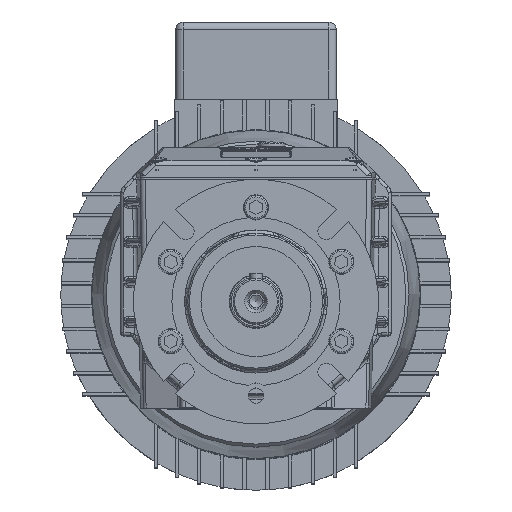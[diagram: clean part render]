
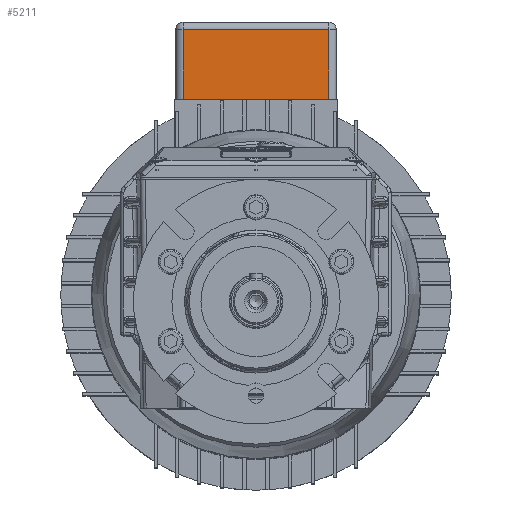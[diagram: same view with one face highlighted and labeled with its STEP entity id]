
A CAD part, top view. The second image highlights one B-rep face of the part: STEP entity #5211.
In plain terms, the highlighted planar face has unit normal (0, 0, 1).
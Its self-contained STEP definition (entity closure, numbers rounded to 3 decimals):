
#5211 = ADVANCED_FACE( '', ( #10962 ), #10963, .T. );
#10962 = FACE_OUTER_BOUND( '', #31929, .T. );
#10963 = PLANE( '', #31930 );
#31929 = EDGE_LOOP( '', ( #48696, #48697, #48698, #48699 ) );
#31930 = AXIS2_PLACEMENT_3D( '', #48700, #48701, #48702 );
#48696 = ORIENTED_EDGE( '', *, *, #55784, .T. );
#48697 = ORIENTED_EDGE( '', *, *, #55867, .T. );
#48698 = ORIENTED_EDGE( '', *, *, #52023, .T. );
#48699 = ORIENTED_EDGE( '', *, *, #57073, .T. );
#48700 = CARTESIAN_POINT( '', ( 52.5, 183.27, -298.9 ) );
#48701 = DIRECTION( '', ( 0., 0., 1. ) );
#48702 = DIRECTION( '', ( 1., 0., 0. ) );
#52023 = EDGE_CURVE( '', #59168, #59166, #59169, .T. );
#55784 = EDGE_CURVE( '', #64901, #64865, #64903, .T. );
#55867 = EDGE_CURVE( '', #64865, #59168, #65006, .T. );
#57073 = EDGE_CURVE( '', #59166, #64901, #66439, .F. );
#59166 = VERTEX_POINT( '', #69763 );
#59168 = VERTEX_POINT( '', #69765 );
#59169 = LINE( '', #69766, #69767 );
#64865 = VERTEX_POINT( '', #80154 );
#64901 = VERTEX_POINT( '', #80199 );
#64903 = LINE( '', #80201, #80202 );
#65006 = LINE( '', #80350, #80351 );
#66439 = LINE( '', #83472, #83473 );
#69763 = CARTESIAN_POINT( '', ( 47.5, 132.77, -298.9 ) );
#69765 = CARTESIAN_POINT( '', ( -47.5, 132.77, -298.9 ) );
#69766 = CARTESIAN_POINT( '', ( -53.5, 132.77, -298.9 ) );
#69767 = VECTOR( '', #85395, 1000. );
#80154 = CARTESIAN_POINT( '', ( -47.5, 178.27, -298.9 ) );
#80199 = CARTESIAN_POINT( '', ( 47.5, 178.27, -298.9 ) );
#80201 = CARTESIAN_POINT( '', ( 52.5, 178.27, -298.9 ) );
#80202 = VECTOR( '', #90011, 1000. );
#80350 = CARTESIAN_POINT( '', ( -47.5, 183.27, -298.9 ) );
#80351 = VECTOR( '', #90097, 1000. );
#83472 = CARTESIAN_POINT( '', ( 47.5, 183.27, -298.9 ) );
#83473 = VECTOR( '', #91213, 1000. );
#85395 = DIRECTION( '', ( 1., 0., 0. ) );
#90011 = DIRECTION( '', ( -1., 0., 0. ) );
#90097 = DIRECTION( '', ( 0., -1., 0. ) );
#91213 = DIRECTION( '', ( 0., -1., 0. ) );
